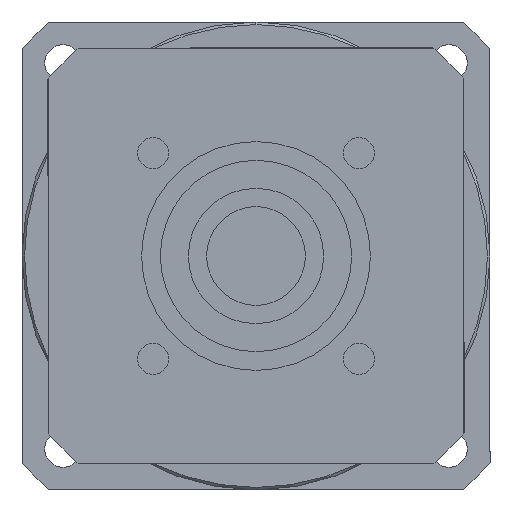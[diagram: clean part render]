
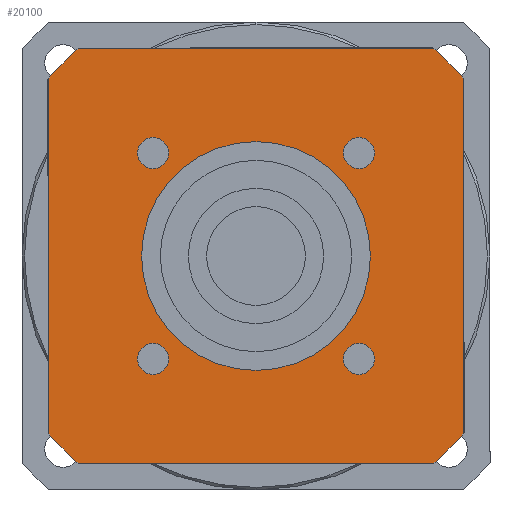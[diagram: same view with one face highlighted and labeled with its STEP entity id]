
A CAD part, left-side view. The second image highlights one B-rep face of the part: STEP entity #20100.
In plain terms, the highlighted planar face has unit normal (-1, 0, 0) as drawn and (0, 0, -1) by its records, which use the part's own axes.
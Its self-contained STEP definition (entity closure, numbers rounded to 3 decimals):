
#16320=CARTESIAN_POINT('',(-34.004,40.,-119.));
#16330=VERTEX_POINT('',#16320);
#16490=CARTESIAN_POINT('',(-40.,34.004,-119.));
#16500=VERTEX_POINT('',#16490);
#16530=CARTESIAN_POINT('',(0.,0.,
-119.));
#16540=DIRECTION('',(0.,0.,1.));
#16550=DIRECTION('',(0.,-1.,0.));
#16560=AXIS2_PLACEMENT_3D('',#16530,#16540,#16550);
#16570=CIRCLE('',#16560,52.5);
#16580=EDGE_CURVE('',#16330,#16500,#16570,.T.);
#18340=CARTESIAN_POINT('',(34.004,40.,-119.));
#18350=VERTEX_POINT('',#18340);
#18480=CARTESIAN_POINT('',(40.,40.,-119.));
#18490=DIRECTION('',(-1.,0.,0.));
#18500=VECTOR('',#18490,1000.);
#18510=LINE('',#18480,#18500);
#18520=EDGE_CURVE('',#18350,#16330,#18510,.T.);
#18570=CARTESIAN_POINT('',(-40.,40.,-119.));
#18580=DIRECTION('',(0.,0.,1.));
#18590=DIRECTION('',(-1.,0.,0.));
#18600=AXIS2_PLACEMENT_3D('',#18570,#18580,#18590);
#18610=PLANE('',#18600);
#18620=CARTESIAN_POINT('',(19.799,-19.799,-119.));
#18630=DIRECTION('',(0.,0.,-1.));
#18640=DIRECTION('',(1.,0.,0.));
#18650=AXIS2_PLACEMENT_3D('',#18620,#18630,#18640);
#18660=CIRCLE('',#18650,3.);
#18670=CARTESIAN_POINT('',(22.799,-19.799,-119.));
#18680=VERTEX_POINT('',#18670);
#18690=CARTESIAN_POINT('',(19.799,-22.799,-119.));
#18700=VERTEX_POINT('',#18690);
#18710=EDGE_CURVE('',#18680,#18700,#18660,.T.);
#18720=ORIENTED_EDGE('',*,*,#18710,.F.);
#18730=CARTESIAN_POINT('',(19.799,-16.799,-119.));
#18740=VERTEX_POINT('',#18730);
#18750=EDGE_CURVE('',#18700,#18740,#18660,.T.);
#18760=ORIENTED_EDGE('',*,*,#18750,.F.);
#18770=EDGE_CURVE('',#18740,#18680,#18660,.T.);
#18780=ORIENTED_EDGE('',*,*,#18770,.F.);
#18790=EDGE_LOOP('',(#18780,#18760,#18720));
#18800=FACE_BOUND('',#18790,.T.);
#18810=CARTESIAN_POINT('',(19.799,19.799,-119.));
#18820=DIRECTION('',(0.,0.,-1.));
#18830=DIRECTION('',(0.,1.,0.));
#18840=AXIS2_PLACEMENT_3D('',#18810,#18820,#18830);
#18850=CIRCLE('',#18840,3.);
#18860=CARTESIAN_POINT('',(19.799,22.799,-119.));
#18870=VERTEX_POINT('',#18860);
#18880=CARTESIAN_POINT('',(22.799,19.799,-119.));
#18890=VERTEX_POINT('',#18880);
#18900=EDGE_CURVE('',#18870,#18890,#18850,.T.);
#18910=ORIENTED_EDGE('',*,*,#18900,.F.);
#18920=CARTESIAN_POINT('',(16.799,19.799,-119.));
#18930=VERTEX_POINT('',#18920);
#18940=EDGE_CURVE('',#18890,#18930,#18850,.T.);
#18950=ORIENTED_EDGE('',*,*,#18940,.F.);
#18960=EDGE_CURVE('',#18930,#18870,#18850,.T.);
#18970=ORIENTED_EDGE('',*,*,#18960,.F.);
#18980=EDGE_LOOP('',(#18970,#18950,#18910));
#18990=FACE_BOUND('',#18980,.T.);
#19000=CARTESIAN_POINT('',(-19.799,19.799,-119.));
#19010=DIRECTION('',(0.,0.,-1.));
#19020=DIRECTION('',(-1.,0.,0.));
#19030=AXIS2_PLACEMENT_3D('',#19000,#19010,#19020);
#19040=CIRCLE('',#19030,3.);
#19050=CARTESIAN_POINT('',(-22.799,19.799,-119.));
#19060=VERTEX_POINT('',#19050);
#19070=CARTESIAN_POINT('',(-19.799,22.799,-119.));
#19080=VERTEX_POINT('',#19070);
#19090=EDGE_CURVE('',#19060,#19080,#19040,.T.);
#19100=ORIENTED_EDGE('',*,*,#19090,.F.);
#19110=CARTESIAN_POINT('',(-19.799,16.799,-119.));
#19120=VERTEX_POINT('',#19110);
#19130=EDGE_CURVE('',#19080,#19120,#19040,.T.);
#19140=ORIENTED_EDGE('',*,*,#19130,.F.);
#19150=EDGE_CURVE('',#19120,#19060,#19040,.T.);
#19160=ORIENTED_EDGE('',*,*,#19150,.F.);
#19170=EDGE_LOOP('',(#19160,#19140,#19100));
#19180=FACE_BOUND('',#19170,.T.);
#19190=CARTESIAN_POINT('',(-19.799,-19.799,-119.));
#19200=DIRECTION('',(0.,0.,-1.));
#19210=DIRECTION('',(0.,-1.,0.));
#19220=AXIS2_PLACEMENT_3D('',#19190,#19200,#19210);
#19230=CIRCLE('',#19220,3.);
#19240=CARTESIAN_POINT('',(-19.799,-22.799,-119.));
#19250=VERTEX_POINT('',#19240);
#19260=CARTESIAN_POINT('',(-22.799,-19.799,-119.));
#19270=VERTEX_POINT('',#19260);
#19280=EDGE_CURVE('',#19250,#19270,#19230,.T.);
#19290=ORIENTED_EDGE('',*,*,#19280,.F.);
#19300=CARTESIAN_POINT('',(-16.799,-19.799,-119.));
#19310=VERTEX_POINT('',#19300);
#19320=EDGE_CURVE('',#19270,#19310,#19230,.T.);
#19330=ORIENTED_EDGE('',*,*,#19320,.F.);
#19340=EDGE_CURVE('',#19310,#19250,#19230,.T.);
#19350=ORIENTED_EDGE('',*,*,#19340,.F.);
#19360=EDGE_LOOP('',(#19350,#19330,#19290));
#19370=FACE_BOUND('',#19360,.T.);
#19380=CARTESIAN_POINT('',(0.,0.,
-119.));
#19390=DIRECTION('',(0.,0.,1.));
#19400=DIRECTION('',(0.,-1.,0.));
#19410=AXIS2_PLACEMENT_3D('',#19380,#19390,#19400);
#19420=CIRCLE('',#19410,52.5);
#19430=CARTESIAN_POINT('',(-40.,-34.004,-119.));
#19440=VERTEX_POINT('',#19430);
#19450=CARTESIAN_POINT('',(-34.004,-40.,-119.));
#19460=VERTEX_POINT('',#19450);
#19470=EDGE_CURVE('',#19440,#19460,#19420,.T.);
#19480=ORIENTED_EDGE('',*,*,#19470,.F.);
#19490=CARTESIAN_POINT('',(-40.,-40.,-119.));
#19500=DIRECTION('',(1.,0.,0.));
#19510=VECTOR('',#19500,1000.);
#19520=LINE('',#19490,#19510);
#19530=CARTESIAN_POINT('',(34.004,-40.,-119.));
#19540=VERTEX_POINT('',#19530);
#19550=EDGE_CURVE('',#19460,#19540,#19520,.T.);
#19560=ORIENTED_EDGE('',*,*,#19550,.F.);
#19570=CARTESIAN_POINT('',(0.,0.,
-119.));
#19580=DIRECTION('',(0.,0.,1.));
#19590=DIRECTION('',(0.,-1.,0.));
#19600=AXIS2_PLACEMENT_3D('',#19570,#19580,#19590);
#19610=CIRCLE('',#19600,52.5);
#19620=CARTESIAN_POINT('',(40.,-34.004,-119.));
#19630=VERTEX_POINT('',#19620);
#19640=EDGE_CURVE('',#19540,#19630,#19610,.T.);
#19650=ORIENTED_EDGE('',*,*,#19640,.F.);
#19660=CARTESIAN_POINT('',(40.,-40.,-119.));
#19670=DIRECTION('',(0.,1.,0.));
#19680=VECTOR('',#19670,1000.);
#19690=LINE('',#19660,#19680);
#19700=CARTESIAN_POINT('',(40.,34.004,-119.));
#19710=VERTEX_POINT('',#19700);
#19720=EDGE_CURVE('',#19630,#19710,#19690,.T.);
#19730=ORIENTED_EDGE('',*,*,#19720,.F.);
#19740=CARTESIAN_POINT('',(0.,0.,
-119.));
#19750=DIRECTION('',(0.,0.,1.));
#19760=DIRECTION('',(0.,-1.,0.));
#19770=AXIS2_PLACEMENT_3D('',#19740,#19750,#19760);
#19780=CIRCLE('',#19770,52.5);
#19790=EDGE_CURVE('',#19710,#18350,#19780,.T.);
#19800=ORIENTED_EDGE('',*,*,#19790,.F.);
#19810=ORIENTED_EDGE('',*,*,#18520,.F.);
#19820=ORIENTED_EDGE('',*,*,#16580,.F.);
#19830=CARTESIAN_POINT('',(-40.,40.,-119.));
#19840=DIRECTION('',(0.,-1.,0.));
#19850=VECTOR('',#19840,1000.);
#19860=LINE('',#19830,#19850);
#19870=EDGE_CURVE('',#16500,#19440,#19860,.T.);
#19880=ORIENTED_EDGE('',*,*,#19870,.F.);
#19890=EDGE_LOOP('',(#19880,#19820,#19810,#19800,#19730,#19650,#19560,
#19480));
#19900=FACE_OUTER_BOUND('',#19890,.T.);
#19910=CARTESIAN_POINT('',(0.,0.,
-119.));
#19920=DIRECTION('',(0.,0.,1.));
#19930=DIRECTION('',(0.,-1.,0.));
#19940=AXIS2_PLACEMENT_3D('',#19910,#19920,#19930);
#19950=CIRCLE('',#19940,22.);
#19960=CARTESIAN_POINT('',(22.,0.,-119.));
#19970=VERTEX_POINT('',#19960);
#19980=CARTESIAN_POINT('',(-22.,0.,-119.));
#19990=VERTEX_POINT('',#19980);
#20000=EDGE_CURVE('',#19970,#19990,#19950,.T.);
#20010=ORIENTED_EDGE('',*,*,#20000,.T.);
#20020=CARTESIAN_POINT('',(0.,-22.,-119.));
#20030=VERTEX_POINT('',#20020);
#20040=EDGE_CURVE('',#20030,#19970,#19950,.T.);
#20050=ORIENTED_EDGE('',*,*,#20040,.T.);
#20060=EDGE_CURVE('',#19990,#20030,#19950,.T.);
#20070=ORIENTED_EDGE('',*,*,#20060,.T.);
#20080=EDGE_LOOP('',(#20070,#20050,#20010));
#20090=FACE_BOUND('',#20080,.T.);
#20100=ADVANCED_FACE('',(#18800,#18990,#19180,#19370,#19900,#20090),
#18610,.F.);
